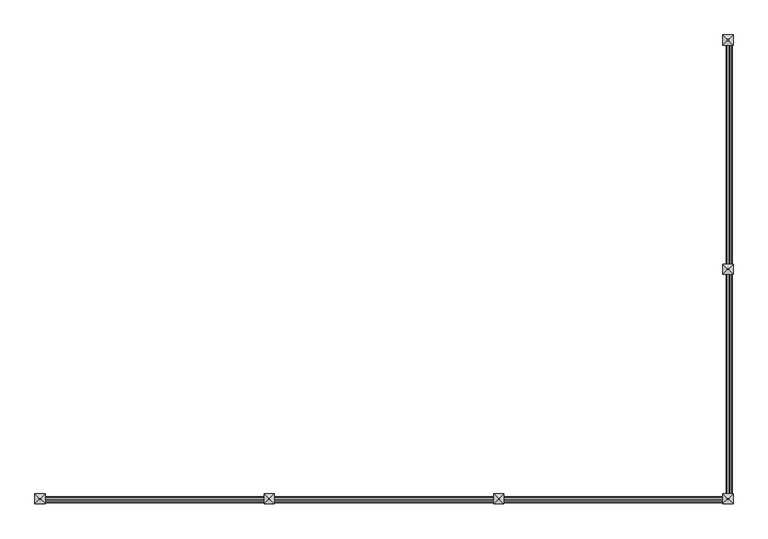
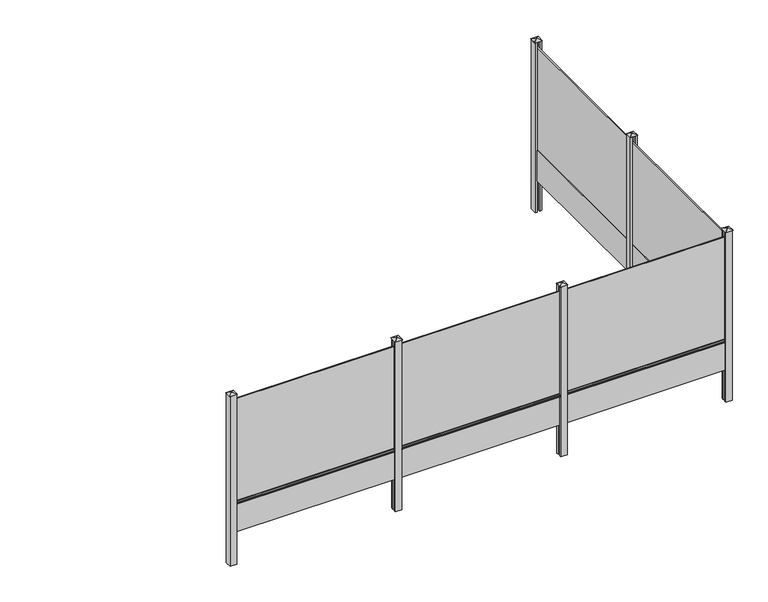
"""IFC4 building model written with IfcOpenShell, lengths in millimetres: railing geometry, Mehat - Railing - Plaque de Soubassement - Classique pour clôture rigide - 250x50x3.5/4 cm."""

from ifc_helpers import new_model, si_unit, point, frame, frame_2d, origin, origin_with_axes, place, context, project, spatial, polyline, circle_curve, trimmed, segment, composite_curve, outline, extrude, faceted_brep, source, transform, mapped, element, save


def railing_acacbf47(model_context):
    return source(origin(), model_context, "Body", "SolidModel", [
        extrude(outline(polyline([(89896.2516516, -10857.4943936), (89879.2516516, -10857.4943936), (89879.2516516, -8357.4943936), (89896.2516516, -8357.4943936), (89896.2516516, -10857.4943936)])), frame((0.0, 0.0, 500.0), z_axis=(0.0, 0.0, 1.0), x_axis=(1.0, 0.0, 0.0)), (0.0, 0.0, 1.0), 1650.0),
        extrude(outline(polyline([(89907.7516516, -10857.4943936), (89867.7516516, -10857.4943936), (89867.7516516, -8357.4943936), (89907.7516516, -8357.4943936), (89907.7516516, -10857.4943936)])), origin_with_axes(), (0.0, 0.0, 1.0), 500.0),
        extrude(outline(composite_curve([segment(polyline([(460.0, 89907.7516516), (467.1937129, 89929.3327905)]), True, "CONTINUOUS"), segment(trimmed(circle_curve(frame_2d((471.9371294, 89927.7516516)), 5.0), [point((467.1937129, 89929.3327905))], [point((471.9371294, 89932.7516516))], False, "CARTESIAN"), True, "CONTINUOUS"), segment(polyline([(471.9371294, 89932.7516516), (488.0628706, 89932.7516516)]), True, "CONTINUOUS"), segment(trimmed(circle_curve(frame_2d((488.0628706, 89927.7516516)), 5.0), [point((488.0628706, 89932.7516516))], [point((492.8062871, 89929.3327905))], False, "CARTESIAN"), True, "CONTINUOUS"), segment(polyline([(492.8062871, 89929.3327905), (500.0, 89907.7516516), (460.0, 89907.7516516)]), True, "CONTINUOUS")], self_intersect=False)), frame((0.0, -10822.4943936, 0.0), z_axis=(0.0, 1.0, 0.0), x_axis=(0.0, 0.0, 1.0)), (0.0, 0.0, 1.0), 2430.0),
        extrude(outline(polyline([(89937.7516516, -10922.4943936), (89907.7516516, -10922.4943936), (89907.7516516, -10887.4943936), (89867.7516516, -10887.4943936), (89867.7516516, -10922.4943936), (89837.7516516, -10922.4943936), (89837.7516516, -10822.4943936), (89867.7516516, -10822.4943936), (89867.7516516, -10857.4943936), (89907.7516516, -10857.4943936), (89907.7516516, -10822.4943936), (89937.7516516, -10822.4943936), (89937.7516516, -10922.4943936)])), frame((0.0, 0.0, -500.0), z_axis=(0.0, 0.0, 1.0), x_axis=(1.0, 0.0, 0.0)), (0.0, 0.0, 1.0), 2750.0),
        faceted_brep([(89881.3471055, -10866.1443936, 2275.4), (89881.3471055, -10878.8443936, 2275.4), (89894.0471055, -10878.8443936, 2275.4), (89894.0471055, -10866.1443936, 2275.4), (89831.4016516, -10816.1443936, 2250.0), (89944.1016516, -10816.1443936, 2250.0), (89944.1016516, -10928.8443936, 2250.0), (89831.4016516, -10928.8443936, 2250.0)], [[[0, 1, 2, 3]], [[4, 5, 6, 7]], [[4, 0, 3, 5]], [[5, 3, 2, 6]], [[6, 2, 1, 7]], [[7, 1, 0, 4]]]),
        extrude(outline(polyline([(89896.2516516, -13387.4943936), (89879.2516516, -13387.4943936), (89879.2516516, -10887.4943936), (89896.2516516, -10887.4943936), (89896.2516516, -13387.4943936)])), frame((0.0, 0.0, 500.0), z_axis=(0.0, 0.0, 1.0), x_axis=(1.0, 0.0, 0.0)), (0.0, 0.0, 1.0), 1650.0),
        extrude(outline(polyline([(89907.7516516, -13387.4943936), (89867.7516516, -13387.4943936), (89867.7516516, -10887.4943936), (89907.7516516, -10887.4943936), (89907.7516516, -13387.4943936)])), origin_with_axes(), (0.0, 0.0, 1.0), 500.0),
        extrude(outline(composite_curve([segment(polyline([(460.0, 89907.7516516), (467.1937129, 89929.3327905)]), True, "CONTINUOUS"), segment(trimmed(circle_curve(frame_2d((471.9371294, 89927.7516516)), 5.0), [point((467.1937129, 89929.3327905))], [point((471.9371294, 89932.7516516))], False, "CARTESIAN"), True, "CONTINUOUS"), segment(polyline([(471.9371294, 89932.7516516), (488.0628706, 89932.7516516)]), True, "CONTINUOUS"), segment(trimmed(circle_curve(frame_2d((488.0628706, 89927.7516516)), 5.0), [point((488.0628706, 89932.7516516))], [point((492.8062871, 89929.3327905))], False, "CARTESIAN"), True, "CONTINUOUS"), segment(polyline([(492.8062871, 89929.3327905), (500.0, 89907.7516516), (460.0, 89907.7516516)]), True, "CONTINUOUS")], self_intersect=False)), frame((0.0, -13352.4943936, 0.0), z_axis=(0.0, 1.0, 0.0), x_axis=(0.0, 0.0, 1.0)), (0.0, 0.0, 1.0), 2430.0),
        extrude(outline(polyline([(87372.7516516, -13410.9943936), (87372.7516516, -13393.9943936), (89872.7516516, -13393.9943936), (89872.7516516, -13410.9943936), (87372.7516516, -13410.9943936)])), frame((0.0, 0.0, 500.0), z_axis=(0.0, 0.0, 1.0), x_axis=(1.0, 0.0, 0.0)), (0.0, 0.0, 1.0), 1650.0),
        extrude(outline(polyline([(87372.7516516, -13422.4943936), (87372.7516516, -13382.4943936), (89872.7516516, -13382.4943936), (89872.7516516, -13422.4943936), (87372.7516516, -13422.4943936)])), origin_with_axes(), (0.0, 0.0, 1.0), 500.0),
        extrude(outline(composite_curve([segment(polyline([(-13422.4943936, 460.0), (-13444.0755325, 467.1937129)]), True, "CONTINUOUS"), segment(trimmed(circle_curve(frame_2d((-13442.4943936, 471.9371294)), 5.0), [point((-13444.0755325, 467.1937129))], [point((-13447.4943936, 471.9371294))], False, "CARTESIAN"), True, "CONTINUOUS"), segment(polyline([(-13447.4943936, 471.9371294), (-13447.4943936, 488.0628706)]), True, "CONTINUOUS"), segment(trimmed(circle_curve(frame_2d((-13442.4943936, 488.0628706)), 5.0), [point((-13447.4943936, 488.0628706))], [point((-13444.0755325, 492.8062871))], False, "CARTESIAN"), True, "CONTINUOUS"), segment(polyline([(-13444.0755325, 492.8062871), (-13422.4943936, 500.0), (-13422.4943936, 460.0)]), True, "CONTINUOUS")], self_intersect=False)), frame((87407.7516516, 0.0, 0.0), z_axis=(1.0, 0.0, 0.0), x_axis=(0.0, 1.0, 0.0)), (0.0, 0.0, 1.0), 2430.0),
        extrude(outline(polyline([(87307.7516516, -13452.4943936), (87307.7516516, -13422.4943936), (87342.7516516, -13422.4943936), (87342.7516516, -13382.4943936), (87307.7516516, -13382.4943936), (87307.7516516, -13352.4943936), (87407.7516516, -13352.4943936), (87407.7516516, -13382.4943936), (87372.7516516, -13382.4943936), (87372.7516516, -13422.4943936), (87407.7516516, -13422.4943936), (87407.7516516, -13452.4943936), (87307.7516516, -13452.4943936)])), frame((0.0, 0.0, -500.0), z_axis=(0.0, 0.0, 1.0), x_axis=(1.0, 0.0, 0.0)), (0.0, 0.0, 1.0), 2750.0),
        faceted_brep([(87364.1016516, -13396.0898475, 2275.4), (87351.4016516, -13396.0898475, 2275.4), (87351.4016516, -13408.7898475, 2275.4), (87364.1016516, -13408.7898475, 2275.4), (87414.1016516, -13346.1443936, 2250.0), (87414.1016516, -13458.8443936, 2250.0), (87301.4016516, -13458.8443936, 2250.0), (87301.4016516, -13346.1443936, 2250.0)], [[[0, 1, 2, 3]], [[4, 5, 6, 7]], [[4, 0, 3, 5]], [[5, 3, 2, 6]], [[6, 2, 1, 7]], [[7, 1, 0, 4]]]),
        extrude(outline(polyline([(84842.7516516, -13410.9943936), (84842.7516516, -13393.9943936), (87342.7516516, -13393.9943936), (87342.7516516, -13410.9943936), (84842.7516516, -13410.9943936)])), frame((0.0, 0.0, 500.0), z_axis=(0.0, 0.0, 1.0), x_axis=(1.0, 0.0, 0.0)), (0.0, 0.0, 1.0), 1650.0),
        extrude(outline(polyline([(84842.7516516, -13422.4943936), (84842.7516516, -13382.4943936), (87342.7516516, -13382.4943936), (87342.7516516, -13422.4943936), (84842.7516516, -13422.4943936)])), origin_with_axes(), (0.0, 0.0, 1.0), 500.0),
        extrude(outline(composite_curve([segment(polyline([(-13422.4943936, 460.0), (-13444.0755325, 467.1937129)]), True, "CONTINUOUS"), segment(trimmed(circle_curve(frame_2d((-13442.4943936, 471.9371294)), 5.0), [point((-13444.0755325, 467.1937129))], [point((-13447.4943936, 471.9371294))], False, "CARTESIAN"), True, "CONTINUOUS"), segment(polyline([(-13447.4943936, 471.9371294), (-13447.4943936, 488.0628706)]), True, "CONTINUOUS"), segment(trimmed(circle_curve(frame_2d((-13442.4943936, 488.0628706)), 5.0), [point((-13447.4943936, 488.0628706))], [point((-13444.0755325, 492.8062871))], False, "CARTESIAN"), True, "CONTINUOUS"), segment(polyline([(-13444.0755325, 492.8062871), (-13422.4943936, 500.0), (-13422.4943936, 460.0)]), True, "CONTINUOUS")], self_intersect=False)), frame((84877.7516516, 0.0, 0.0), z_axis=(1.0, 0.0, 0.0), x_axis=(0.0, 1.0, 0.0)), (0.0, 0.0, 1.0), 2430.0),
        extrude(outline(polyline([(84777.7516516, -13452.4943936), (84777.7516516, -13422.4943936), (84812.7516516, -13422.4943936), (84812.7516516, -13382.4943936), (84777.7516516, -13382.4943936), (84777.7516516, -13352.4943936), (84877.7516516, -13352.4943936), (84877.7516516, -13382.4943936), (84842.7516516, -13382.4943936), (84842.7516516, -13422.4943936), (84877.7516516, -13422.4943936), (84877.7516516, -13452.4943936), (84777.7516516, -13452.4943936)])), frame((0.0, 0.0, -500.0), z_axis=(0.0, 0.0, 1.0), x_axis=(1.0, 0.0, 0.0)), (0.0, 0.0, 1.0), 2750.0),
        faceted_brep([(84834.1016516, -13396.0898475, 2275.4), (84821.4016516, -13396.0898475, 2275.4), (84821.4016516, -13408.7898475, 2275.4), (84834.1016516, -13408.7898475, 2275.4), (84884.1016516, -13346.1443936, 2250.0), (84884.1016516, -13458.8443936, 2250.0), (84771.4016516, -13458.8443936, 2250.0), (84771.4016516, -13346.1443936, 2250.0)], [[[0, 1, 2, 3]], [[4, 5, 6, 7]], [[4, 0, 3, 5]], [[5, 3, 2, 6]], [[6, 2, 1, 7]], [[7, 1, 0, 4]]]),
        extrude(outline(polyline([(82312.7516516, -13410.9943936), (82312.7516516, -13393.9943936), (84812.7516516, -13393.9943936), (84812.7516516, -13410.9943936), (82312.7516516, -13410.9943936)])), frame((0.0, 0.0, 500.0), z_axis=(0.0, 0.0, 1.0), x_axis=(1.0, 0.0, 0.0)), (0.0, 0.0, 1.0), 1650.0),
        extrude(outline(polyline([(82312.7516516, -13422.4943936), (82312.7516516, -13382.4943936), (84812.7516516, -13382.4943936), (84812.7516516, -13422.4943936), (82312.7516516, -13422.4943936)])), origin_with_axes(), (0.0, 0.0, 1.0), 500.0),
        extrude(outline(composite_curve([segment(polyline([(-13422.4943936, 460.0), (-13444.0755325, 467.1937129)]), True, "CONTINUOUS"), segment(trimmed(circle_curve(frame_2d((-13442.4943936, 471.9371294)), 5.0), [point((-13444.0755325, 467.1937129))], [point((-13447.4943936, 471.9371294))], False, "CARTESIAN"), True, "CONTINUOUS"), segment(polyline([(-13447.4943936, 471.9371294), (-13447.4943936, 488.0628706)]), True, "CONTINUOUS"), segment(trimmed(circle_curve(frame_2d((-13442.4943936, 488.0628706)), 5.0), [point((-13447.4943936, 488.0628706))], [point((-13444.0755325, 492.8062871))], False, "CARTESIAN"), True, "CONTINUOUS"), segment(polyline([(-13444.0755325, 492.8062871), (-13422.4943936, 500.0), (-13422.4943936, 460.0)]), True, "CONTINUOUS")], self_intersect=False)), frame((82347.7516516, 0.0, 0.0), z_axis=(1.0, 0.0, 0.0), x_axis=(0.0, 1.0, 0.0)), (0.0, 0.0, 1.0), 2430.0),
        extrude(outline(polyline([(89837.7516516, -13452.4943936), (89837.7516516, -13422.4943936), (89872.7516516, -13422.4943936), (89872.7516516, -13387.4943936), (89907.7516516, -13387.4943936), (89907.7516516, -13352.4943936), (89937.7516516, -13352.4943936), (89937.7516516, -13452.4943936), (89837.7516516, -13452.4943936)])), frame((0.0, 0.0, -500.0), z_axis=(0.0, 0.0, 1.0), x_axis=(1.0, 0.0, 0.0)), (0.0, 0.0, 1.0), 2750.0),
        extrude(outline(polyline([(89837.7516516, -13352.4943936), (89867.7516516, -13352.4943936), (89867.7516516, -13382.4943936), (89837.7516516, -13382.4943936), (89837.7516516, -13352.4943936)])), frame((0.0, 0.0, -500.0), z_axis=(0.0, 0.0, 1.0), x_axis=(1.0, 0.0, 0.0)), (0.0, 0.0, 1.0), 2750.0),
        faceted_brep([(89894.1016516, -13396.0898475, 2275.4), (89881.4016516, -13396.0898475, 2275.4), (89881.4016516, -13408.7898475, 2275.4), (89894.1016516, -13408.7898475, 2275.4), (89944.1016516, -13346.1443936, 2250.0), (89944.1016516, -13458.8443936, 2250.0), (89831.4016516, -13458.8443936, 2250.0), (89831.4016516, -13346.1443936, 2250.0)], [[[0, 1, 2, 3]], [[4, 5, 6, 7]], [[4, 0, 3, 5]], [[5, 3, 2, 6]], [[6, 2, 1, 7]], [[7, 1, 0, 4]]]),
        extrude(outline(polyline([(89937.7516516, -8392.4943936), (89907.7516516, -8392.4943936), (89907.7516516, -8357.4943936), (89867.7516516, -8357.4943936), (89867.7516516, -8392.4943936), (89837.7516516, -8392.4943936), (89837.7516516, -8292.4943936), (89937.7516516, -8292.4943936), (89937.7516516, -8392.4943936)])), frame((0.0, 0.0, -500.0), z_axis=(0.0, 0.0, 1.0), x_axis=(1.0, 0.0, 0.0)), (0.0, 0.0, 1.0), 2750.0),
        faceted_brep([(89881.3471055, -8336.1443936, 2275.4), (89881.3471055, -8348.8443936, 2275.4), (89894.0471055, -8348.8443936, 2275.4), (89894.0471055, -8336.1443936, 2275.4), (89831.4016516, -8286.1443936, 2250.0), (89944.1016516, -8286.1443936, 2250.0), (89944.1016516, -8398.8443936, 2250.0), (89831.4016516, -8398.8443936, 2250.0)], [[[0, 1, 2, 3]], [[4, 5, 6, 7]], [[4, 0, 3, 5]], [[5, 3, 2, 6]], [[6, 2, 1, 7]], [[7, 1, 0, 4]]]),
        extrude(outline(polyline([(82247.7516516, -13452.4943936), (82247.7516516, -13352.4943936), (82347.7516516, -13352.4943936), (82347.7516516, -13382.4943936), (82312.7516516, -13382.4943936), (82312.7516516, -13422.4943936), (82347.7516516, -13422.4943936), (82347.7516516, -13452.4943936), (82247.7516516, -13452.4943936)])), frame((0.0, 0.0, -500.0), z_axis=(0.0, 0.0, 1.0), x_axis=(1.0, 0.0, 0.0)), (0.0, 0.0, 1.0), 2750.0),
        faceted_brep([(82304.1016516, -13396.0898475, 2275.4), (82291.4016516, -13396.0898475, 2275.4), (82291.4016516, -13408.7898475, 2275.4), (82304.1016516, -13408.7898475, 2275.4), (82354.1016516, -13346.1443936, 2250.0), (82354.1016516, -13458.8443936, 2250.0), (82241.4016516, -13458.8443936, 2250.0), (82241.4016516, -13346.1443936, 2250.0)], [[[0, 1, 2, 3]], [[4, 5, 6, 7]], [[4, 0, 3, 5]], [[5, 3, 2, 6]], [[6, 2, 1, 7]], [[7, 1, 0, 4]]]),
    ])


if __name__ == "__main__":
    model = new_model("IFC4")
    model_context = context("Model", 3, world=origin())
    ifc_project = project(units=[si_unit("LENGTHUNIT", "METRE", prefix="MILLI")], contexts=[model_context])
    site = spatial("IfcSite", under=ifc_project)
    building = spatial("IfcBuilding", under=site)
    placement = place(None, origin())
    railing_shape = railing_acacbf47(model_context)
    element("IfcRailing", 1, ObjectType="Mehat - Railing - Plaque de Soubassement - Classique pour clôture rigide - 250x50x3.5/4 cm", at=placement, inside=building, context=model_context, shape_type="MappedRepresentation", body=[
        mapped(railing_shape, transform((0.0, 0.0, 0.0), x_axis=(1.0, 0.0, 0.0), y_axis=(0.0, 1.0, 0.0), z_axis=(0.0, 0.0, 1.0))),
    ])
    save(model, "model.ifc")
